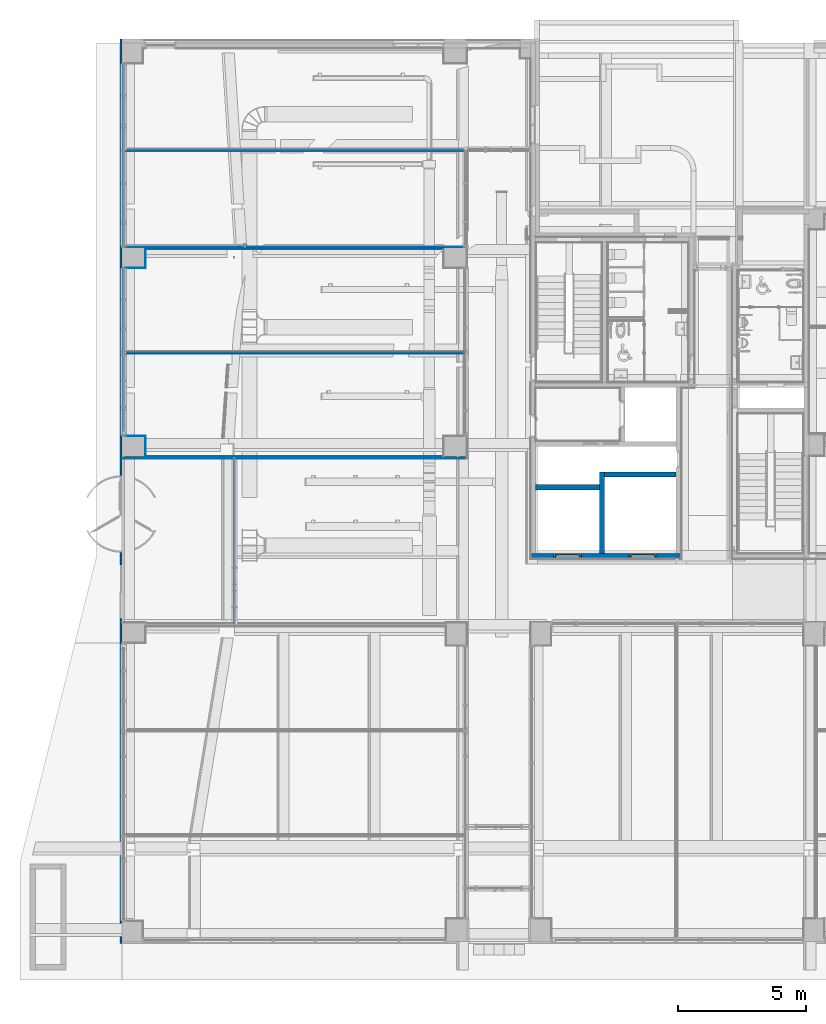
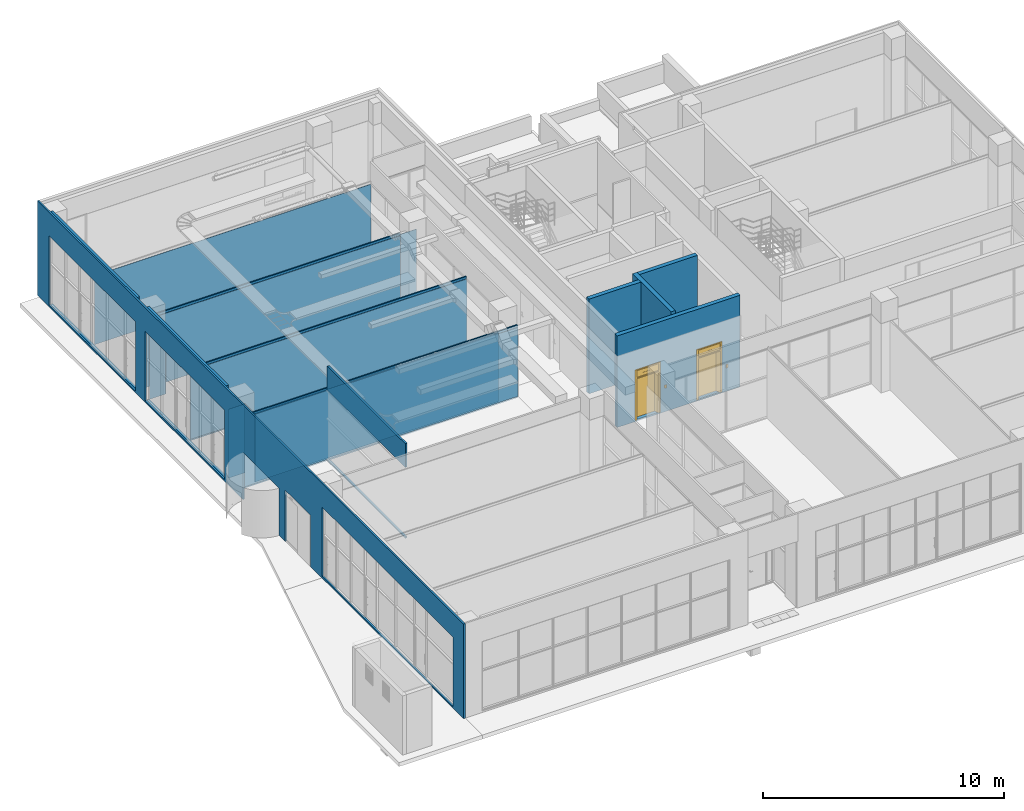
# One storey, part 39 of 100: 21 walls, 2 doors, 10 openings.
"""IFC2X3 building model written with IfcOpenShell, lengths in millimetres."""

from ifc_helpers import new_model, entity, si_unit, converted_unit, derived_unit, direction, frame, frame_2d, origin, place, context, subcontext, project, spatial, polyline, rectangle, extrude, clip, bounded_halfspace, faceted_brep, source, transform, mapped, material, material_list, layer, layer_set, layer_usage, type_object, type_shapes, element, fill, save


model = new_model("IFC2X3")

# Units and contexts
model_context = context("Model", 3, precision=0.01, world=origin(), true_north=direction((6.123031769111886e-17, 1.0)))
body_context = subcontext(model_context, "Body", "Model", "MODEL_VIEW")
ifc_project = project(units=[si_unit("LENGTHUNIT", "METRE", prefix="MILLI"), si_unit("AREAUNIT", "SQUARE_METRE"), si_unit("VOLUMEUNIT", "CUBIC_METRE"), converted_unit("PLANEANGLEUNIT", "DEGREE", entity("IfcRatioMeasure", 0.017453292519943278), si_unit("PLANEANGLEUNIT", "RADIAN"), dimensions=[0, 0, 0, 0, 0, 0, 0]), si_unit("MASSUNIT", "GRAM", prefix="KILO"), derived_unit("MASSDENSITYUNIT", [(si_unit("MASSUNIT", "GRAM", prefix="KILO"), 1), (si_unit("LENGTHUNIT", "METRE"), -3)]), derived_unit("MOMENTOFINERTIAUNIT", [(si_unit("LENGTHUNIT", "METRE"), 4)]), si_unit("TIMEUNIT", "SECOND"), si_unit("FREQUENCYUNIT", "HERTZ"), si_unit("THERMODYNAMICTEMPERATUREUNIT", "DEGREE_CELSIUS"), derived_unit("THERMALTRANSMITTANCEUNIT", [(si_unit("MASSUNIT", "GRAM", prefix="KILO"), 1), (si_unit("THERMODYNAMICTEMPERATUREUNIT", "KELVIN"), -1), (si_unit("TIMEUNIT", "SECOND"), -3)]), derived_unit("VOLUMETRICFLOWRATEUNIT", [(si_unit("LENGTHUNIT", "METRE"), 3), (si_unit("TIMEUNIT", "SECOND"), -1)]), derived_unit("MASSFLOWRATEUNIT", [(si_unit("MASSUNIT", "GRAM", prefix="KILO"), 1), (si_unit("TIMEUNIT", "SECOND"), -1)]), derived_unit("ROTATIONALFREQUENCYUNIT", [(si_unit("TIMEUNIT", "SECOND"), -1)]), si_unit("ELECTRICCURRENTUNIT", "AMPERE"), si_unit("ELECTRICVOLTAGEUNIT", "VOLT"), si_unit("POWERUNIT", "WATT"), si_unit("FORCEUNIT", "NEWTON", prefix="KILO"), si_unit("ILLUMINANCEUNIT", "LUX"), si_unit("LUMINOUSFLUXUNIT", "LUMEN"), si_unit("LUMINOUSINTENSITYUNIT", "CANDELA"), derived_unit("USERDEFINED", [(si_unit("MASSUNIT", "GRAM", prefix="KILO"), -1), (si_unit("LENGTHUNIT", "METRE"), -2), (si_unit("TIMEUNIT", "SECOND"), 3), (si_unit("LUMINOUSFLUXUNIT", "LUMEN"), 1)]), derived_unit("SOUNDPOWERUNIT", [(si_unit("MASSUNIT", "GRAM", prefix="KILO"), 1), (si_unit("LENGTHUNIT", "METRE"), 2), (si_unit("TIMEUNIT", "SECOND"), -3)]), derived_unit("SOUNDPRESSUREUNIT", [(si_unit("MASSUNIT", "GRAM", prefix="KILO"), 1), (si_unit("LENGTHUNIT", "METRE"), -1), (si_unit("TIMEUNIT", "SECOND"), -2)]), derived_unit("LINEARVELOCITYUNIT", [(si_unit("LENGTHUNIT", "METRE"), 1), (si_unit("TIMEUNIT", "SECOND"), -1)]), si_unit("PRESSUREUNIT", "PASCAL"), derived_unit("USERDEFINED", [(si_unit("LENGTHUNIT", "METRE"), -2), (si_unit("MASSUNIT", "GRAM", prefix="KILO"), 1), (si_unit("TIMEUNIT", "SECOND"), -2)]), derived_unit("LINEARFORCEUNIT", [(si_unit("MASSUNIT", "GRAM", prefix="KILO"), 1), (si_unit("LENGTHUNIT", "METRE"), 1), (si_unit("TIMEUNIT", "SECOND"), -2), (si_unit("LENGTHUNIT", "METRE"), -1)]), derived_unit("PLANARFORCEUNIT", [(si_unit("MASSUNIT", "GRAM", prefix="KILO"), 1), (si_unit("LENGTHUNIT", "METRE"), 1), (si_unit("TIMEUNIT", "SECOND"), -2), (si_unit("LENGTHUNIT", "METRE"), -2)])], contexts=[model_context])

# Site, building, storey
site_placement = place(None, frame((-14167.972527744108, -657.2125860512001, 0.0)))
site = spatial("IfcSite", under=ifc_project, at=site_placement, Name="Default", CompositionType="ELEMENT")
building_placement = place(site_placement, origin())
building = spatial("IfcBuilding", under=site, at=building_placement, Name="Sample Building", CompositionType="ELEMENT")
storey_placement = place(building_placement, origin())
storey = spatial("IfcBuildingStorey", under=building, at=storey_placement, Name="지상 1층", CompositionType="ELEMENT", Elevation=0.0)

# Wall, openings, doors
ifc_material_1 = material(Name="KBIMS-콘크리트")
ifc_layer_1 = layer(ifc_material_1, 200.0)
ifc_layer_set_1 = layer_set([ifc_layer_1], Name="기본 벽:WA111-철근콘크리트구조 벽 200mm_CW1")
ifc_layer_usage_1 = layer_usage(ifc_layer_set_1, "AXIS2", "NEGATIVE", 100.0)
wall_type_1 = type_object("IfcWallType", Name="기본 벽:WA111-철근콘크리트구조 벽 200mm_CW1", PredefinedType="STANDARD", material=ifc_layer_set_1)
wall_1_placement = place(storey_placement, frame((35967.97249113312, 15653.302947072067, 0.0), z_axis=(0.0, 0.0, 1.0), x_axis=(-1.0, 0.0, 0.0)))
wall_1 = element("IfcWallStandardCase", 1, at=wall_1_placement, inside=storey, type_object=wall_type_1, material=ifc_layer_usage_1, Name="기본 벽:WA111-철근콘크리트구조 벽 200mm_CW1", ObjectType="기본 벽:WA111-철근콘크리트구조 벽 200mm_CW1", context=body_context, shape_type="Clipping", body=[
    clip(extrude(rectangle(XDim=5901.846676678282, YDim=200.0, at=frame_2d((2950.923338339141, 9.592326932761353e-13), x_axis=(-1.0, 0.0))), origin(), (0.0, 0.0, 1.0), 4650.000000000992), bounded_halfspace(frame((0.0, -100.0, 4650.0), z_axis=(0.0, 0.0, -1.0), x_axis=(-1.0, 0.0, 0.0)), True, frame((0.0, -100.0, 4650.0), z_axis=(0.0, 0.0, -1.0), x_axis=(-1.0, 0.0, 0.0)), polyline([(0.0, 0.0), (0.0, 60960.0), (-1798882.8670515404, 60960.0), (-1798882.8670515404, -1.2474629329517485e-09), (-1737922.867051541, -1.2258055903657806e-09), (-975359.9311308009, 0.0), (-914399.9311308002, 0.0), (-60960.0, 0.0), (0.0, 0.0)]))),
])
opening_1_placement = place(wall_1_placement, frame((5000.923225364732, 100.0, 80.0)))
opening_1 = element("IfcOpeningElement", 2, at=opening_1_placement, cuts=wall_1, Name="EE111-엘리베이터문(문):EE111-엘리베이터문(20인승)_1100x2550:1", ObjectType="Opening", context=body_context, shape_type="SweptSolid", body=[
    extrude(rectangle(XDim=2549.999999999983, YDim=1099.9999999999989, at=frame_2d((1274.9999999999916, 550.0000000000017), x_axis=(1.0, 0.0))), frame((0.0, 0.0, 0.0), z_axis=(0.0, -1.0, 0.0), x_axis=(0.0, 0.0, 1.0)), (0.0, 0.0, 1.0), 200.0),
])
opening_2_placement = place(wall_1_placement, frame((2049.999909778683, 100.0, 80.0)))
opening_2 = element("IfcOpeningElement", 3, at=opening_2_placement, cuts=wall_1, Name="EE111-엘리베이터문(문):EE111-엘리베이터문(20인승)_1100x2550:1", ObjectType="Opening", context=body_context, shape_type="SweptSolid", body=[
    extrude(rectangle(XDim=2549.999999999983, YDim=1099.9999999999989, at=frame_2d((1274.9999999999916, 550.0000000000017), x_axis=(1.0, 0.0))), frame((0.0, 0.0, 0.0), z_axis=(0.0, -1.0, 0.0), x_axis=(0.0, 0.0, 1.0)), (0.0, 0.0, 1.0), 200.0),
])
ifc_material_2 = material(Name="<Unnamed>")
ifc_material_list_1 = material_list([ifc_material_2, ifc_material_2, ifc_material_2, ifc_material_2])
ifc_material_list_2 = material_list([ifc_material_2, ifc_material_2, ifc_material_2, ifc_material_2])
door_style = type_object("IfcDoorStyle", Name="EE111-엘리베이터문(문):EE111-엘리베이터문(20인승)_1100x2550", ConstructionType="NOTDEFINED", OperationType="DOUBLE_DOOR_SLIDING", ParameterTakesPrecedence=False, Sizeable=False, material=ifc_material_list_2)
shared_shape = source(origin(), body_context, "Body", "Brep", [
    faceted_brep([(-296.2736811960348, 220.43384628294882, 1175.0), (-313.5941892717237, 220.4338462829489, 1145.0), (-330.9146973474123, 220.43384628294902, 1175.0), (-296.2736811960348, 215.04269782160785, 1175.0), (-330.9146973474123, 215.0426978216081, 1175.0), (-313.5941892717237, 215.04269782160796, 1145.0)], [[[0, 1, 2]], [[3, 4, 5]], [[1, 0, 3, 5]], [[2, 1, 5, 4]], [[0, 2, 4, 3]]]),
    faceted_brep([(-330.9146973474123, 220.43384628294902, 1225.0), (-296.2736811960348, 220.43384628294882, 1225.0), (-296.2736811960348, 215.04269782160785, 1225.0), (-330.9146973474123, 215.04269782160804, 1225.0), (-313.5941892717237, 220.4338462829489, 1255.0), (-313.5941892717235, 215.04269782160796, 1255.0)], [[[0, 1, 2, 3]], [[4, 0, 3, 5]], [[1, 4, 5, 2]], [[2, 5, 3]], [[1, 0, 4]]]),
    faceted_brep([(-351.5567877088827, 215.0426978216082, 1277.0326998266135), (-275.63159083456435, 215.04269782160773, 1277.0326998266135), (-275.63159083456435, 215.04269782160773, 1122.967300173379), (-351.5567877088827, 215.0426978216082, 1122.967300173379), (-351.55678770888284, 200.0, 1277.0326998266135), (-351.55678770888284, 200.0, 1122.967300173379), (-275.6315908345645, 200.0, 1122.967300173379), (-275.6315908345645, 200.0, 1277.0326998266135)], [[[0, 1, 2, 3]], [[4, 5, 6, 7]], [[1, 0, 4, 7]], [[2, 1, 7, 6]], [[3, 2, 6, 5]], [[0, 3, 5, 4]]]),
    faceted_brep([(-60.0, 200.0, 2550.0), (-60.0, 240.0, 2550.0), (-60.0, 240.0, 0.0), (-60.0, 200.0, 0.0), (703.014298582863, 240.0, 2550.0), (703.014298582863, 240.0, 2500.0), (27.911234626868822, 240.0, 2500.0), (27.911234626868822, 240.0, 2150.0), (703.014298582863, 240.0, 2150.0), (703.014298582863, 240.0, 2100.0), (27.911234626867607, 240.0, 2100.0), (27.911234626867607, 240.0, 0.0), (978.5926496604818, 40.0, 0.0), (1078.5926496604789, 240.0, 0.0), (1160.0, 240.0, 0.0), (1160.0, 200.0, 0.0), (1100.0, 200.0, 0.0), (1000.0, 0.0, 0.0), (555.0, 0.0, 0.0), (555.0, 40.0, 0.0), (0.0, 200.0, 2550.0), (0.0, 200.0, 0.0), (100.0, 0.0, 2550.0), (100.0, 0.0, 0.0), (1000.0, 0.0, 2550.0), (545.0, 0.0, 0.0), (545.0, 0.0, 2100.0), (555.0, 0.0, 2100.0), (545.0, 40.0, 0.0), (545.0, 40.0, 2100.0), (555.0, 40.0, 2100.0), (1100.0, 200.0, 2550.0), (1160.0, 200.0, 2550.0), (1160.0, 240.0, 2550.0), (1078.5926496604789, 240.0, 2100.0), (1078.5926496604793, 240.0, 2150.0), (1078.5926496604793, 240.0, 2500.0), (978.5926496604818, 40.0, 2100.0), (127.91123462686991, 40.0, 0.0), (127.91123462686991, 40.0, 2100.0), (1078.5926496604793, 214.08728771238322, 2150.0), (1078.5926496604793, 214.08728771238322, 2500.0), (27.911234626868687, 214.0872877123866, 2500.0), (27.911234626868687, 214.0872877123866, 2150.0), (550.0, 214.08728771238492, 2370.0), (410.8272722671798, 214.08728771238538, 2370.0), (410.8272722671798, 214.08728771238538, 2300.0), (550.0, 214.08728771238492, 2300.0), (789.172727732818, 214.08728771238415, 2300.0), (789.172727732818, 214.08728771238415, 2370.0), (550.0, 208.4787281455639, 2370.0), (410.8272722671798, 208.47872814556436, 2370.0), (410.8272722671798, 208.47872814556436, 2300.0), (789.172727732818, 208.47872814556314, 2300.0), (789.172727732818, 208.47872814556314, 2370.0), (550.0, 208.4787281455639, 2300.0)], [[[0, 1, 2, 3]], [[2, 1, 4, 5, 6, 7, 8, 9, 10, 11]], [[12, 13, 14, 15, 16, 17, 18, 19]], [[20, 0, 3, 21]], [[22, 20, 21, 23]], [[24, 22, 23, 25, 26, 27, 18, 17]], [[25, 28, 29, 26]], [[19, 18, 27, 30]], [[31, 24, 17, 16]], [[32, 31, 16, 15]], [[33, 32, 15, 14]], [[4, 33, 14, 13, 34, 9, 8, 35, 36, 5]], [[13, 12, 37, 34]], [[38, 11, 10, 39]], [[38, 39, 29, 28]], [[37, 12, 19, 30]], [[1, 0, 20, 22, 24, 31, 32, 33, 4]], [[40, 41, 36, 35]], [[41, 42, 6, 5, 36]], [[42, 43, 7, 6]], [[43, 42, 41, 40], [44, 45, 46, 47, 48, 49]], [[50, 51, 45, 44]], [[51, 52, 46, 45]], [[53, 54, 49, 48]], [[54, 50, 44, 49]], [[50, 54, 53, 55, 52, 51]], [[10, 9, 34, 37, 30, 27, 26, 29, 39]], [[43, 40, 35, 8, 7]], [[52, 55, 47, 46]], [[55, 53, 48, 47]], [[21, 3, 2, 11, 38, 28, 25, 23]]]),
])
type_shapes(door_style, [shared_shape])
door_1_placement = place(opening_1_placement, frame((-1100.0, -200.0, 0.0)))
door_1 = element("IfcDoor", 4, at=door_1_placement, inside=storey, type_object=door_style, material=ifc_material_list_1, Name="EE111-엘리베이터문(문):EE111-엘리베이터문(20인승)_1100x2550", ObjectType="EE111-엘리베이터문(문):EE111-엘리베이터문(20인승)_1100x2550", OverallHeight=2549.999999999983, OverallWidth=1100.0000000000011, context=body_context, shape_type="MappedRepresentation", body=[
    mapped(shared_shape, transform((0.0, 0.0, 0.0), scale=1.0)),
])
fill(opening_1, door_1)
door_2_placement = place(opening_2_placement, frame((-1100.0, -200.0, 0.0)))
door_2 = element("IfcDoor", 5, at=door_2_placement, inside=storey, type_object=door_style, material=ifc_material_2, Name="EE111-엘리베이터문(문):EE111-엘리베이터문(20인승)_1100x2550", ObjectType="EE111-엘리베이터문(문):EE111-엘리베이터문(20인승)_1100x2550", OverallHeight=2549.999999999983, OverallWidth=1100.0000000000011, context=body_context, shape_type="MappedRepresentation", body=[
    mapped(shared_shape, transform((0.0, 0.0, 0.0), scale=1.0)),
])
fill(opening_2, door_2)

# Walls
ifc_layer_usage_2 = layer_usage(ifc_layer_set_1, "AXIS2", "NEGATIVE", 100.0)
wall_2_placement = place(storey_placement, frame((32867.97271708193, 15753.302947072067, 0.0), z_axis=(0.0, 0.0, 1.0), x_axis=(0.0, 1.0, 0.0)))
element("IfcWallStandardCase", 6, at=wall_2_placement, inside=storey, type_object=wall_type_1, material=ifc_layer_usage_2, Name="기본 벽:WA111-철근콘크리트구조 벽 200mm_CW1", ObjectType="기본 벽:WA111-철근콘크리트구조 벽 200mm_CW1", context=body_context, shape_type="SweptSolid", body=[
    extrude(rectangle(XDim=3203.9093625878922, YDim=200.0000000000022, at=frame_2d((1601.954681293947, -2.1032064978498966e-12), x_axis=(-1.0, 0.0))), origin(), (0.0, 0.0, 1.0), 4799.999999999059),
])
ifc_layer_usage_3 = layer_usage(ifc_layer_set_1, "AXIS2", "NEGATIVE", 100.0)
wall_3_placement = place(storey_placement, frame((32967.97271708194, 18857.21230965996, 0.0)))
element("IfcWallStandardCase", 7, at=wall_3_placement, inside=storey, type_object=wall_type_1, material=ifc_layer_usage_3, Name="기본 벽:WA111-철근콘크리트구조 벽 200mm_CW1", ObjectType="기본 벽:WA111-철근콘크리트구조 벽 200mm_CW1", context=body_context, shape_type="SweptSolid", body=[
    extrude(rectangle(XDim=2799.999774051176, YDim=200.0, at=frame_2d((1399.999887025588, -1.0871303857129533e-12), x_axis=(-1.0, 0.0))), origin(), (0.0, 0.0, 1.0), 4799.999999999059),
])
ifc_layer_usage_4 = layer_usage(ifc_layer_set_1, "AXIS2", "NEGATIVE", 100.0)
wall_4_placement = place(storey_placement, frame((32767.97271708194, 18357.212309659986, 0.0), z_axis=(0.0, 0.0, 1.0), x_axis=(-1.0, 0.0, 0.0)))
element("IfcWallStandardCase", 8, at=wall_4_placement, inside=storey, type_object=wall_type_1, material=ifc_layer_usage_4, Name="기본 벽:WA111-철근콘크리트구조 벽 200mm_CW1", ObjectType="기본 벽:WA111-철근콘크리트구조 벽 200mm_CW1", context=body_context, shape_type="SweptSolid", body=[
    extrude(rectangle(XDim=2501.8469026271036, YDim=200.0, at=frame_2d((1250.9234513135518, 9.592326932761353e-13), x_axis=(-1.0, 0.0))), origin(), (0.0, 0.0, 1.0), 4799.999999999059),
])

# Wall, openings
ifc_material_3 = material(Name="KBIMS-화강석 잔다듬")
ifc_layer_2 = layer(ifc_material_3, 80.0)
ifc_layer_set_2 = layer_set([ifc_layer_2], Name="기본 벽:WA313-화강석잔다듬 벽 (30, 건식50) 80mm")
ifc_layer_usage_5 = layer_usage(ifc_layer_set_2, "AXIS2", "POSITIVE", -40.0)
wall_type_2 = type_object("IfcWallType", Name="기본 벽:WA313-화강석잔다듬 벽 (30, 건식50) 80mm", PredefinedType="STANDARD", material=ifc_layer_set_2)
wall_5_placement = place(storey_placement, frame((14027.955105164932, 35907.21229514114, 0.0), z_axis=(0.0, 0.0, 1.0), x_axis=(0.0, -1.0, 0.0)))
wall_5 = element("IfcWallStandardCase", 9, at=wall_5_placement, inside=storey, type_object=wall_type_2, material=ifc_layer_usage_5, Name="기본 벽:WA313-화강석잔다듬 벽 (30, 건식50) 80mm", ObjectType="기본 벽:WA313-화강석잔다듬 벽 (30, 건식50) 80mm", context=body_context, shape_type="SweptSolid", body=[
    extrude(rectangle(XDim=35430.00009999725, YDim=79.99999999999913, at=frame_2d((17715.000049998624, 6.217248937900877e-13), x_axis=(1.0, 0.0))), origin(), (0.0, 0.0, 1.0), 4799.999998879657),
])
opening_3_placement = place(wall_5_placement, origin())
element("IfcOpeningElement", 10, at=opening_3_placement, cuts=wall_5, Name="기본 벽:WA313-화강석잔다듬 벽 (30, 건식50) 80mm", ObjectType="Opening", context=body_context, shape_type="SweptSolid", body=[
    extrude(rectangle(XDim=3520.000000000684, YDim=7200.017111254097, at=frame_2d((-1.1368683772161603e-13, 2.2737367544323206e-12), x_axis=(1.0, 0.0))), frame((4550.008570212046, -192.39999999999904, 1840.0), z_axis=(0.0, 1.0, 0.0), x_axis=(0.0, 0.0, 1.0)), (0.0, 0.0, 1.0), 384.79999999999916),
])
opening_4_placement = place(wall_5_placement, origin())
element("IfcOpeningElement", 11, at=opening_4_placement, cuts=wall_5, Name="기본 벽:WA313-화강석잔다듬 벽 (30, 건식50) 80mm", ObjectType="Opening", context=body_context, shape_type="SweptSolid", body=[
    extrude(rectangle(XDim=3520.000000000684, YDim=6600.000000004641, at=frame_2d((-1.1368683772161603e-13, 0.0), x_axis=(1.0, 0.0))), frame((12250.017403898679, -192.3999999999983, 1840.0), z_axis=(0.0, 1.0, 0.0), x_axis=(0.0, 0.0, 1.0)), (0.0, 0.0, 1.0), 384.79999999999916),
])
opening_5_placement = place(wall_5_placement, origin())
element("IfcOpeningElement", 12, at=opening_5_placement, cuts=wall_5, Name="기본 벽:WA313-화강석잔다듬 벽 (30, 건식50) 80mm", ObjectType="Opening", context=body_context, shape_type="SweptSolid", body=[
    extrude(rectangle(XDim=3520.000000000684, YDim=10899.983005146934, at=frame_2d((-1.1368683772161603e-13, 0.0), x_axis=(1.0, 0.0))), frame((29100.00890647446, -192.39999999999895, 1840.0), z_axis=(0.0, 1.0, 0.0), x_axis=(0.0, 0.0, 1.0)), (0.0, 0.0, 1.0), 384.79999999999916),
])
opening_6_placement = place(wall_5_placement, frame((17100.034670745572, -40.0, 0.0)))
element("IfcOpeningElement", 13, at=opening_6_placement, cuts=wall_5, Name="DR422-회전문(전동식, 스테인리스 스틸):DR422-회전문(전동식, 스테인리스 스틸) 3000x2400mm:1", ObjectType="Opening", context=body_context, shape_type="SweptSolid", body=[
    extrude(rectangle(XDim=2399.9999999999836, YDim=2999.9999999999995, at=frame_2d((1199.9999999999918, 1500.0), x_axis=(-1.0, 0.0))), frame((0.0, 0.0, 0.0), z_axis=(0.0, 1.0, 0.0), x_axis=(0.0, 0.0, 1.0)), (0.0, 0.0, 1.0), 80.0),
])
opening_7_placement = place(wall_5_placement, frame((20600.034670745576, -40.0, 0.0)))
element("IfcOpeningElement", 14, at=opening_7_placement, cuts=wall_5, Name="DR222-외미닫이 자동문(전동식) 2000X2600mm:DR222-외미닫이 자동문(전동식) 2000X2600mm:1", ObjectType="Opening", context=body_context, shape_type="SweptSolid", body=[
    extrude(rectangle(XDim=2600.0000000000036, YDim=2089.999999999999, at=frame_2d((1300.0000000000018, 1044.9999999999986), x_axis=(-1.0, 0.0))), frame((0.0, 0.0, 0.0), z_axis=(0.0, 1.0, 0.0), x_axis=(0.0, 0.0, 1.0)), (0.0, 0.0, 1.0), 80.0),
])

# Walls
ifc_material_4 = material(Name="KBIMS-DRY WALL")
ifc_layer_3 = layer(ifc_material_4, 12.5)
ifc_material_5 = material(Name="KBIMS-경량철골벽틀")
ifc_layer_4 = layer(ifc_material_5, 50.0)
ifc_layer_set_3 = layer_set([ifc_layer_3, ifc_layer_4], Name="기본 벽:WA731-DRY WALL(C50, GS12.5mm) (1겹한면, GW50mm) 62.5mm")
ifc_layer_usage_6 = layer_usage(ifc_layer_set_3, "AXIS2", "NEGATIVE", 31.250000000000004)
wall_type_3 = type_object("IfcWallType", Name="기본 벽:WA731-DRY WALL(C50, GS12.5mm) (1겹한면, GW50mm) 62.5mm", PredefinedType="STANDARD", material=ifc_layer_set_3)
wall_6_placement = place(storey_placement, frame((14967.972436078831, 27725.962586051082, 80.0)))
element("IfcWallStandardCase", 15, at=wall_6_placement, inside=storey, type_object=wall_type_3, material=ifc_layer_usage_6, Name="기본 벽:WA731-DRY WALL(C50, GS12.5mm) (1겹한면, GW50mm) 62.5mm", ObjectType="기본 벽:WA731-DRY WALL(C50, GS12.5mm) (1겹한면, GW50mm) 62.5mm", context=body_context, shape_type="Clipping", body=[
    clip(extrude(rectangle(XDim=11699.999999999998, YDim=62.49999999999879, at=frame_2d((5849.999999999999, 3.502975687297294e-12), x_axis=(1.0, 0.0))), origin(), (0.0, 0.0, 1.0), 3620.000000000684), bounded_halfspace(frame((11700.0, -31.249999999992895, 0.0), z_axis=(0.0, 0.0, 1.0), x_axis=(-1.0, 0.0, 0.0)), True, frame((11700.0, -31.249999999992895, 0.0), z_axis=(0.0, 0.0, 1.0), x_axis=(-1.0, 0.0, 0.0)), polyline([(0.0, 0.0), (0.0, -19050.0), (3566160.0, -19050.0), (3566160.0, -1.0057669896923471e-08), (0.0, 0.0)]))),
])
ifc_layer_usage_7 = layer_usage(ifc_layer_set_3, "AXIS2", "NEGATIVE", 31.250000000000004)
wall_7_placement = place(storey_placement, frame((14229.839654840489, 23625.927624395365, 0.0)))
element("IfcWallStandardCase", 16, at=wall_7_placement, inside=storey, type_object=wall_type_3, material=ifc_layer_usage_7, Name="기본 벽:WA731-DRY WALL(C50, GS12.5mm) (1겹한면, GW50mm) 62.5mm", ObjectType="기본 벽:WA731-DRY WALL(C50, GS12.5mm) (1겹한면, GW50mm) 62.5mm", context=body_context, shape_type="SweptSolid", body=[
    extrude(rectangle(XDim=13248.115486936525, YDim=62.49999999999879, at=frame_2d((6624.057743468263, 1.7994494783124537e-12), x_axis=(-1.0, 0.0))), origin(), (0.0, 0.0, 1.0), 3700.000000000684),
])
ifc_layer_usage_8 = layer_usage(ifc_layer_set_3, "AXIS2", "NEGATIVE", 31.250000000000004)
wall_8_placement = place(storey_placement, frame((14067.97245452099, 19525.927624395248, 0.0)))
element("IfcWallStandardCase", 17, at=wall_8_placement, inside=storey, type_object=wall_type_3, material=ifc_layer_usage_8, Name="기본 벽:WA731-DRY WALL(C50, GS12.5mm) (1겹한면, GW50mm) 62.5mm", ObjectType="기본 벽:WA731-DRY WALL(C50, GS12.5mm) (1겹한면, GW50mm) 62.5mm", context=body_context, shape_type="SweptSolid", body=[
    extrude(rectangle(XDim=13499.982650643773, YDim=62.499999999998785, at=frame_2d((6749.9913253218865, 1.4690471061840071e-12), x_axis=(-1.0, 0.0))), origin(), (0.0, 0.0, 1.0), 3700.000000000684),
])

# Wall, opening
ifc_material_6 = material(Name="KBIMS-시멘트 벽돌")
ifc_layer_5 = layer(ifc_material_6, 90.0)
ifc_layer_set_4 = layer_set([ifc_layer_5], Name="기본 벽:WA211-시멘트벽돌(일반) 벽 (0.5B) 90mm")
ifc_layer_usage_9 = layer_usage(ifc_layer_set_4, "AXIS2", "NEGATIVE", 45.0)
wall_type_4 = type_object("IfcWallType", Name="기본 벽:WA211-시멘트벽돌(일반) 벽 (0.5B) 90mm", PredefinedType="STANDARD", material=ifc_layer_set_4)
wall_9_placement = place(storey_placement, frame((18467.96379814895, 19494.677624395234, 0.0), z_axis=(0.0, 0.0, 1.0), x_axis=(0.0, -1.0, 0.0)))
wall_9 = element("IfcWallStandardCase", 18, at=wall_9_placement, inside=storey, type_object=wall_type_4, material=ifc_layer_usage_9, Name="기본 벽:WA211-시멘트벽돌(일반) 벽 (0.5B) 90mm", ObjectType="기본 벽:WA211-시멘트벽돌(일반) 벽 (0.5B) 90mm", context=body_context, shape_type="SweptSolid", body=[
    extrude(rectangle(XDim=6492.46503834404, YDim=89.99999999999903, at=frame_2d((3246.23251917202, 4.405364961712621e-13), x_axis=(-1.0, 0.0))), origin(), (0.0, 0.0, 1.0), 4799.999999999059),
])
opening_8_placement = place(wall_9_placement, origin())
element("IfcOpeningElement", 19, at=opening_8_placement, cuts=wall_9, Name="기본 벽:WA211-시멘트벽돌(일반) 벽 (0.5B) 90mm", ObjectType="Opening", context=body_context, shape_type="SweptSolid", body=[
    extrude(rectangle(XDim=3520.000000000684, YDim=6492.4650383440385, at=frame_2d((-1.1368683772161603e-13, 9.094947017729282e-13), x_axis=(1.0, 0.0))), frame((3246.23251917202, -197.40000000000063, 1840.0), z_axis=(0.0, 1.0, 0.0), x_axis=(0.0, 0.0, 1.0)), (0.0, 0.0, 1.0), 394.79999999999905),
])

ifc_layer_6 = layer(ifc_material_1, 125.00000000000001)
ifc_layer_set_5 = layer_set([ifc_layer_6], Name="기본 벽:WA111-철근콘크리트구조 벽 125mm_W3")
ifc_layer_usage_10 = layer_usage(ifc_layer_set_5, "AXIS2", "NEGATIVE", 62.50000000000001)
wall_type_5 = type_object("IfcWallType", Name="기본 벽:WA111-철근콘크리트구조 벽 125mm_W3", PredefinedType="STANDARD", material=ifc_layer_set_5)
wall_10_placement = place(storey_placement, frame((14130.455105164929, 34957.21228055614, 0.0), z_axis=(0.0, 0.0, 1.0), x_axis=(0.0, -1.0, 0.0)))
wall_10 = element("IfcWallStandardCase", 20, at=wall_10_placement, inside=storey, type_object=wall_type_5, material=ifc_layer_usage_10, Name="기본 벽:WA111-철근콘크리트구조 벽 125mm_W3", ObjectType="기본 벽:WA111-철근콘크리트구조 벽 125mm_W3", context=body_context, shape_type="SweptSolid", body=[
    extrude(rectangle(XDim=7200.017111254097, YDim=124.99999999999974, at=frame_2d((3600.0085556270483, 1.1581846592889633e-12), x_axis=(-1.0, 0.0))), origin(), (0.0, 0.0, 1.0), 4800.000000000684),
])
opening_9_placement = place(wall_10_placement, origin())
element("IfcOpeningElement", 21, at=opening_9_placement, cuts=wall_10, Name="기본 벽:WA111-철근콘크리트구조 벽 125mm_W3", ObjectType="Opening", context=body_context, shape_type="SweptSolid", body=[
    extrude(rectangle(XDim=3520.000000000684, YDim=7200.017111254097, at=frame_2d((-1.1368683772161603e-13, 2.2737367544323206e-12), x_axis=(1.0, 0.0))), frame((3600.008555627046, -214.8999999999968, 1840.0), z_axis=(0.0, 1.0, 0.0), x_axis=(0.0, 0.0, 1.0)), (0.0, 0.0, 1.0), 429.7999999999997),
])

ifc_layer_usage_11 = layer_usage(ifc_layer_set_5, "AXIS2", "NEGATIVE", 62.50000000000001)
wall_11_placement = place(storey_placement, frame((14129.839654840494, 26957.19489124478, 0.0), z_axis=(0.0, 0.0, 1.0), x_axis=(0.0, -1.0, 0.0)))
wall_11 = element("IfcWallStandardCase", 22, at=wall_11_placement, inside=storey, type_object=wall_type_5, material=ifc_layer_usage_11, Name="기본 벽:WA111-철근콘크리트구조 벽 125mm_W3", ObjectType="기본 벽:WA111-철근콘크리트구조 벽 125mm_W3", context=body_context, shape_type="SweptSolid", body=[
    extrude(rectangle(XDim=6600.000000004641, YDim=124.99999999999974, at=frame_2d((3300.0000000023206, 1.0835776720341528e-12), x_axis=(-1.0, 0.0))), origin(), (0.0, 0.0, 1.0), 4800.000000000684),
])
opening_10_placement = place(wall_11_placement, origin())
element("IfcOpeningElement", 23, at=opening_10_placement, cuts=wall_11, Name="기본 벽:WA111-철근콘크리트구조 벽 125mm_W3", ObjectType="Opening", context=body_context, shape_type="SweptSolid", body=[
    extrude(rectangle(XDim=3520.000000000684, YDim=6600.000000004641, at=frame_2d((-1.1368683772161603e-13, 0.0), x_axis=(1.0, 0.0))), frame((3300.0, -214.9000000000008, 1840.0), z_axis=(0.0, 1.0, 0.0), x_axis=(0.0, 0.0, 1.0)), (0.0, 0.0, 1.0), 429.7999999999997),
])

# Walls
ifc_material_7 = material(Name="WA611-수성페인트 (내부) 벽 (3회)")
ifc_layer_7 = layer(ifc_material_7, 1.0)
ifc_material_8 = material(Name="WA551-시멘트모르타르 (내부) 벽 18mm")
ifc_layer_8 = layer(ifc_material_8, 16.0)
ifc_material_9 = material(Name="WA555-콘크리트면정리 벽 (내부)")
ifc_layer_9 = layer(ifc_material_9, 1.0)
ifc_layer_set_6 = layer_set([ifc_layer_7, ifc_layer_8, ifc_layer_9], Name="기본 벽:A1-32-06A-콘크리트면정리, 시멘트모르타르(미장용), 수성페인트(내부) (18mm)")
ifc_layer_usage_12 = layer_usage(ifc_layer_set_6, "AXIS2", "NEGATIVE", 9.000000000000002)
wall_type_6 = type_object("IfcWallType", Name="기본 벽:A1-32-06A-콘크리트면정리, 시멘트모르타르(미장용), 수성페인트(내부) (18mm)", PredefinedType="STANDARD", material=ifc_layer_set_6)
wall_12_placement = place(storey_placement, frame((27567.955141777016, 19485.6776243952, 80.0), z_axis=(0.0, 0.0, 1.0), x_axis=(-1.0, 0.0, 0.0)))
element("IfcWallStandardCase", 24, at=wall_12_placement, inside=storey, type_object=wall_type_6, material=ifc_layer_usage_12, Name="기본 벽:A1-32-06A-콘크리트면정리, 시멘트모르타르(미장용), 수성페인트(내부) (18mm)", ObjectType="기본 벽:A1-32-06A-콘크리트면정리, 시멘트모르타르(미장용), 수성페인트(내부) (18mm)", context=body_context, shape_type="SweptSolid", body=[
    extrude(rectangle(XDim=13500.000036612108, YDim=18.00000000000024, at=frame_2d((6750.000018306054, -1.2612133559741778e-13), x_axis=(-1.0, 0.0))), origin(), (0.0, 0.0, 1.0), 3500.0000000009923),
])
ifc_layer_usage_13 = layer_usage(ifc_layer_set_6, "AXIS2", "NEGATIVE", 9.000000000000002)
wall_13_placement = place(storey_placement, frame((14192.95510516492, 27766.195169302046, 80.0)))
element("IfcWallStandardCase", 25, at=wall_13_placement, inside=storey, type_object=wall_type_6, material=ifc_layer_usage_13, Name="기본 벽:A1-32-06A-콘크리트면정리, 시멘트모르타르(미장용), 수성페인트(내부) (18mm)", ObjectType="기본 벽:A1-32-06A-콘크리트면정리, 시멘트모르타르(미장용), 수성페인트(내부) (18mm)", context=body_context, shape_type="SweptSolid", body=[
    extrude(rectangle(XDim=13285.00003661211, YDim=18.00000000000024, at=frame_2d((6642.500018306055, -2.1298518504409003e-12), x_axis=(-1.0, 0.0))), origin(), (0.0, 0.0, 1.0), 3500.0000000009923),
])
ifc_layer_usage_14 = layer_usage(ifc_layer_set_6, "AXIS2", "NEGATIVE", 9.000000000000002)
wall_14_placement = place(storey_placement, frame((27474.797381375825, 31523.160331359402, 80.0), z_axis=(0.0, 0.0, 1.0), x_axis=(-1.0, 0.0, 0.0)))
element("IfcWallStandardCase", 26, at=wall_14_placement, inside=storey, type_object=wall_type_6, material=ifc_layer_usage_14, Name="기본 벽:A1-32-06A-콘크리트면정리, 시멘트모르타르(미장용), 수성페인트(내부) (18mm)", ObjectType="기본 벽:A1-32-06A-콘크리트면정리, 시멘트모르타르(미장용), 수성페인트(내부) (18mm)", context=body_context, shape_type="SweptSolid", body=[
    extrude(rectangle(XDim=13281.842276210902, YDim=18.00000000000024, at=frame_2d((6640.921138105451, -2.099653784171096e-12), x_axis=(-1.0, 0.0))), origin(), (0.0, 0.0, 1.0), 3500.0000000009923),
])
ifc_layer_usage_15 = layer_usage(ifc_layer_set_6, "AXIS2", "NEGATIVE", 9.000000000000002)
wall_15_placement = place(storey_placement, frame((26667.972491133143, 27685.712586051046, 80.0), z_axis=(0.0, 0.0, 1.0), x_axis=(-1.0, 0.0, 0.0)))
element("IfcWallStandardCase", 27, at=wall_15_placement, inside=storey, type_object=wall_type_6, material=ifc_layer_usage_15, Name="기본 벽:A1-32-06A-콘크리트면정리, 시멘트모르타르(미장용), 수성페인트(내부) (18mm)", ObjectType="기본 벽:A1-32-06A-콘크리트면정리, 시멘트모르타르(미장용), 수성페인트(내부) (18mm)", context=body_context, shape_type="SweptSolid", body=[
    extrude(rectangle(XDim=11700.000055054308, YDim=18.00000000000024, at=frame_2d((5850.000027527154, -2.136069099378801e-12), x_axis=(-1.0, 0.0))), origin(), (0.0, 0.0, 1.0), 3500.0000000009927),
])
ifc_layer_usage_16 = layer_usage(ifc_layer_set_6, "AXIS2", "NEGATIVE", 9.000000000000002)
wall_16_placement = place(storey_placement, frame((14976.972436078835, 27676.712586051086, 80.0), z_axis=(0.0, 0.0, 1.0), x_axis=(0.0, -1.0, 0.0)))
element("IfcWallStandardCase", 28, at=wall_16_placement, inside=storey, type_object=wall_type_6, material=ifc_layer_usage_16, Name="기본 벽:A1-32-06A-콘크리트면정리, 시멘트모르타르(미장용), 수성페인트(내부) (18mm)", ObjectType="기본 벽:A1-32-06A-콘크리트면정리, 시멘트모르타르(미장용), 수성페인트(내부) (18mm)", context=body_context, shape_type="SweptSolid", body=[
    extrude(rectangle(XDim=737.517694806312, YDim=18.00000000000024, at=frame_2d((368.758847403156, 8.79296635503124e-14), x_axis=(-1.0, 0.0))), origin(), (0.0, 0.0, 1.0), 3500.0000000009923),
])
ifc_layer_usage_17 = layer_usage(ifc_layer_set_6, "AXIS2", "NEGATIVE", 9.000000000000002)
wall_17_placement = place(storey_placement, frame((14967.972436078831, 26948.194891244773, 80.0), z_axis=(0.0, 0.0, 1.0), x_axis=(-1.0, 0.0, 0.0)))
element("IfcWallStandardCase", 29, at=wall_17_placement, inside=storey, type_object=wall_type_6, material=ifc_layer_usage_17, Name="기본 벽:A1-32-06A-콘크리트면정리, 시멘트모르타르(미장용), 수성페인트(내부) (18mm)", ObjectType="기본 벽:A1-32-06A-콘크리트면정리, 시멘트모르타르(미장용), 수성페인트(내부) (18mm)", context=body_context, shape_type="SweptSolid", body=[
    extrude(rectangle(XDim=775.6327812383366, YDim=18.00000000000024, at=frame_2d((387.8163906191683, -2.114752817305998e-12), x_axis=(-1.0, 0.0))), origin(), (0.0, 0.0, 1.0), 3500.0000000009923),
])
ifc_layer_usage_18 = layer_usage(ifc_layer_set_6, "AXIS2", "NEGATIVE", 9.000000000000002)
wall_18_placement = place(storey_placement, frame((14192.339654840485, 20366.194891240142, 80.0)))
element("IfcWallStandardCase", 30, at=wall_18_placement, inside=storey, type_object=wall_type_6, material=ifc_layer_usage_18, Name="기본 벽:A1-32-06A-콘크리트면정리, 시멘트모르타르(미장용), 수성페인트(내부) (18mm)", ObjectType="기본 벽:A1-32-06A-콘크리트면정리, 시멘트모르타르(미장용), 수성페인트(내부) (18mm)", context=body_context, shape_type="SweptSolid", body=[
    extrude(rectangle(XDim=793.6327996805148, YDim=18.00000000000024, at=frame_2d((396.8163998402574, -2.0898838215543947e-12), x_axis=(-1.0, 0.0))), origin(), (0.0, 0.0, 1.0), 3500.0000000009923),
])
ifc_layer_usage_19 = layer_usage(ifc_layer_set_6, "AXIS2", "NEGATIVE", 9.000000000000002)
wall_19_placement = place(storey_placement, frame((14976.972454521, 20357.194891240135, 80.0), z_axis=(0.0, 0.0, 1.0), x_axis=(0.0, -1.0, 0.0)))
element("IfcWallStandardCase", 31, at=wall_19_placement, inside=storey, type_object=wall_type_6, material=ifc_layer_usage_19, Name="기본 벽:A1-32-06A-콘크리트면정리, 시멘트모르타르(미장용), 수성페인트(내부) (18mm)", ObjectType="기본 벽:A1-32-06A-콘크리트면정리, 시멘트모르타르(미장용), 수성페인트(내부) (18mm)", context=body_context, shape_type="SweptSolid", body=[
    extrude(rectangle(XDim=800.0172668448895, YDim=18.000000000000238, at=frame_2d((400.00863342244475, 0.0), x_axis=(-1.0, 0.0))), origin(), (0.0, 0.0, 1.0), 3500.0000000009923),
])
ifc_layer_usage_20 = layer_usage(ifc_layer_set_6, "AXIS2", "NEGATIVE", 9.000000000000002)
wall_20_placement = place(storey_placement, frame((14985.972454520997, 19566.16020764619, 80.0)))
element("IfcWallStandardCase", 32, at=wall_20_placement, inside=storey, type_object=wall_type_6, material=ifc_layer_usage_20, Name="기본 벽:A1-32-06A-콘크리트면정리, 시멘트모르타르(미장용), 수성페인트(내부) (18mm)", ObjectType="기본 벽:A1-32-06A-콘크리트면정리, 시멘트모르타르(미장용), 수성페인트(내부) (18mm)", context=body_context, shape_type="SweptSolid", body=[
    extrude(rectangle(XDim=11682.000036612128, YDim=18.00000000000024, at=frame_2d((5841.000018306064, -2.1662671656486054e-12), x_axis=(-1.0, 0.0))), origin(), (0.0, 0.0, 1.0), 3500.0000000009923),
])
ifc_layer_usage_21 = layer_usage(ifc_layer_set_6, "AXIS2", "NEGATIVE", 9.000000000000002)
wall_21_placement = place(storey_placement, frame((27477.95514177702, 23585.677624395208, 80.0), z_axis=(0.0, 0.0, 1.0), x_axis=(-1.0, 0.0, 0.0)))
element("IfcWallStandardCase", 33, at=wall_21_placement, inside=storey, type_object=wall_type_6, material=ifc_layer_usage_21, Name="기본 벽:A1-32-06A-콘크리트면정리, 시멘트모르타르(미장용), 수성페인트(내부) (18mm)", ObjectType="기본 벽:A1-32-06A-콘크리트면정리, 시멘트모르타르(미장용), 수성페인트(내부) (18mm)", context=body_context, shape_type="SweptSolid", body=[
    extrude(rectangle(XDim=13248.115486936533, YDim=18.00000000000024, at=frame_2d((6624.057743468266, -2.157385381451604e-12), x_axis=(-1.0, 0.0))), origin(), (0.0, 0.0, 1.0), 3500.0000000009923),
])

save(model, "model.ifc")
